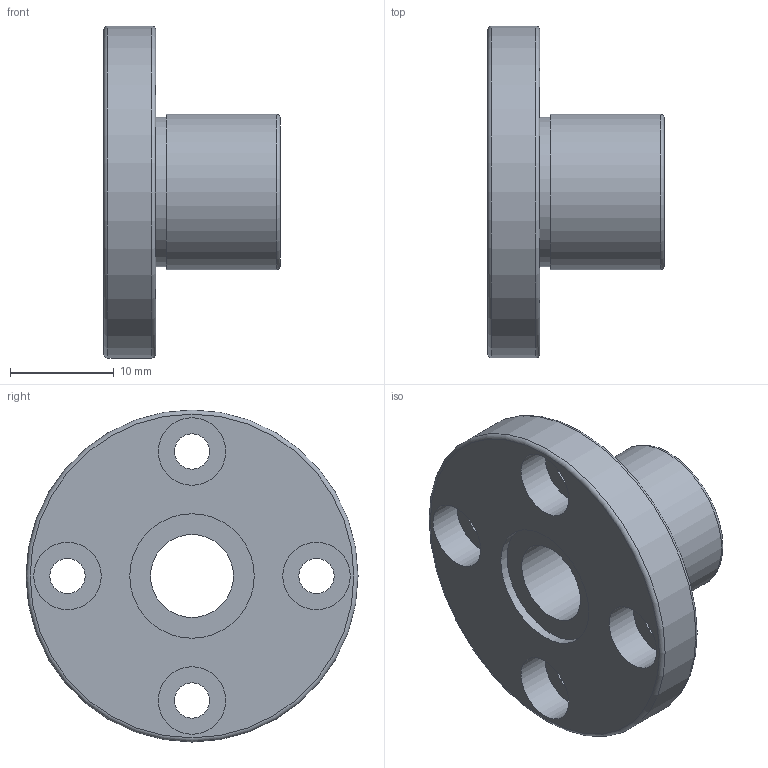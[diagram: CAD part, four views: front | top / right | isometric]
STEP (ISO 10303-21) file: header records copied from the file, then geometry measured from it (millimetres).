
FILE_DESCRIPTION( ( 'Unknown' ), '1' );
FILE_NAME( 'D:/累诀/己绕皋墨飘肺葱胶/11-04-06_档搁累己/01_府聪绢何教/LMF/LMF 8S.stp', 'Unknown', ( 'Unknown' ), ( 'Unknown' ), 'PSStep 11.0', 'Unknown', ' ' );
FILE_SCHEMA( ( 'AUTOMOTIVE_DESIGN { 1 0 10303 214 1 1 1 1 }' ) );
Length unit declared in the file: millimetre
Products named in the file (1): 1
Bounding box: 17 x 32 x 32 mm (x, y, z)
Volume: 4658.4 mm3; surface area: 3277.3 mm2
Topology: 1 solids, 1 shells, 27 faces, 52 edges, 35 vertices
Faces by surface type: cylinder 14, plane 10, torus 3
Full cylindrical faces by diameter (mm): 3.4 x4, 6.5 x4, 8 x1, 12 x2, 14.4 x1, 15 x1, 32 x1
Entity records: 836 total; most frequent: DIRECTION 118, CARTESIAN_POINT 90, EDGE_LOOP 62, ORIENTED_EDGE 62, AXIS2_PLACEMENT_3D 59, FACE_OUTER_BOUND 44, EDGE_CURVE 31, VERTEX_POINT 31
